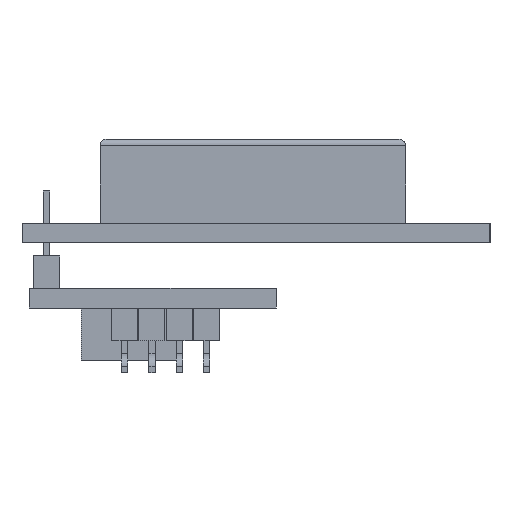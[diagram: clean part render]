
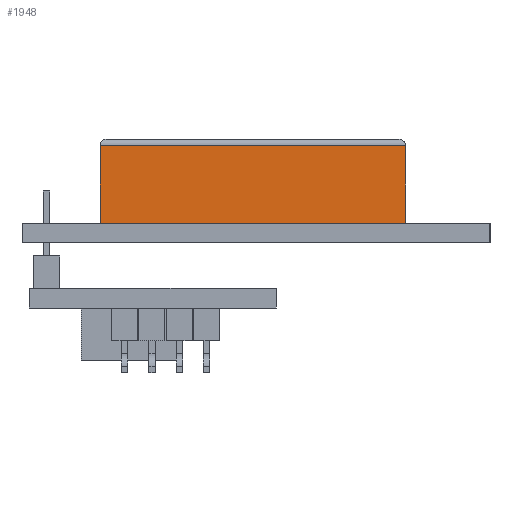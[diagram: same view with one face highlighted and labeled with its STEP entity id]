
A CAD part, left-side view. The second image highlights one B-rep face of the part: STEP entity #1948.
In plain terms, the highlighted planar face has unit normal (-1, 0, 0).
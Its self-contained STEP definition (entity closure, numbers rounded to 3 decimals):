
#816 = CYLINDRICAL_SURFACE('',#817,0.5);
#817 = AXIS2_PLACEMENT_3D('',#818,#819,#820);
#818 = CARTESIAN_POINT('',(-35.5,-11.5,6.));
#819 = DIRECTION('',(0.,1.,0.));
#820 = DIRECTION('',(0.,-0.,1.));
#1166 = VERTEX_POINT('',#1167);
#1167 = CARTESIAN_POINT('',(-36.,-11.5,6.));
#1181 = PLANE('',#1182);
#1182 = AXIS2_PLACEMENT_3D('',#1183,#1184,#1185);
#1183 = CARTESIAN_POINT('',(34.,-11.5,0.));
#1184 = DIRECTION('',(0.,-1.,0.));
#1185 = DIRECTION('',(-1.,0.,0.));
#1295 = EDGE_CURVE('',#1166,#1296,#1298,.T.);
#1296 = VERTEX_POINT('',#1297);
#1297 = CARTESIAN_POINT('',(-36.,12.,6.));
#1298 = SURFACE_CURVE('',#1299,(#1303,#1310),.PCURVE_S1.);
#1299 = LINE('',#1300,#1301);
#1300 = CARTESIAN_POINT('',(-36.,-11.5,6.));
#1301 = VECTOR('',#1302,1.);
#1302 = DIRECTION('',(0.,1.,0.));
#1303 = PCURVE('',#816,#1304);
#1304 = DEFINITIONAL_REPRESENTATION('',(#1305),#1309);
#1305 = LINE('',#1306,#1307);
#1306 = CARTESIAN_POINT('',(-1.571,0.));
#1307 = VECTOR('',#1308,1.);
#1308 = DIRECTION('',(-0.,1.));
#1309 = ( GEOMETRIC_REPRESENTATION_CONTEXT(2) 
PARAMETRIC_REPRESENTATION_CONTEXT() REPRESENTATION_CONTEXT('2D SPACE',''
  ) );
#1310 = PCURVE('',#1311,#1316);
#1311 = PLANE('',#1312);
#1312 = AXIS2_PLACEMENT_3D('',#1313,#1314,#1315);
#1313 = CARTESIAN_POINT('',(-36.,-11.5,0.));
#1314 = DIRECTION('',(-1.,0.,0.));
#1315 = DIRECTION('',(0.,1.,0.));
#1316 = DEFINITIONAL_REPRESENTATION('',(#1317),#1321);
#1317 = LINE('',#1318,#1319);
#1318 = CARTESIAN_POINT('',(0.,-6.));
#1319 = VECTOR('',#1320,1.);
#1320 = DIRECTION('',(1.,0.));
#1321 = ( GEOMETRIC_REPRESENTATION_CONTEXT(2) 
PARAMETRIC_REPRESENTATION_CONTEXT() REPRESENTATION_CONTEXT('2D SPACE',''
  ) );
#1374 = PLANE('',#1375);
#1375 = AXIS2_PLACEMENT_3D('',#1376,#1377,#1378);
#1376 = CARTESIAN_POINT('',(-36.,12.,0.));
#1377 = DIRECTION('',(0.,1.,0.));
#1378 = DIRECTION('',(1.,0.,0.));
#1851 = EDGE_CURVE('',#1852,#1166,#1854,.T.);
#1852 = VERTEX_POINT('',#1853);
#1853 = CARTESIAN_POINT('',(-36.,-11.5,0.));
#1854 = SURFACE_CURVE('',#1855,(#1859,#1866),.PCURVE_S1.);
#1855 = LINE('',#1856,#1857);
#1856 = CARTESIAN_POINT('',(-36.,-11.5,0.));
#1857 = VECTOR('',#1858,1.);
#1858 = DIRECTION('',(0.,0.,1.));
#1859 = PCURVE('',#1181,#1860);
#1860 = DEFINITIONAL_REPRESENTATION('',(#1861),#1865);
#1861 = LINE('',#1862,#1863);
#1862 = CARTESIAN_POINT('',(70.,0.));
#1863 = VECTOR('',#1864,1.);
#1864 = DIRECTION('',(0.,-1.));
#1865 = ( GEOMETRIC_REPRESENTATION_CONTEXT(2) 
PARAMETRIC_REPRESENTATION_CONTEXT() REPRESENTATION_CONTEXT('2D SPACE',''
  ) );
#1866 = PCURVE('',#1311,#1867);
#1867 = DEFINITIONAL_REPRESENTATION('',(#1868),#1872);
#1868 = LINE('',#1869,#1870);
#1869 = CARTESIAN_POINT('',(0.,0.));
#1870 = VECTOR('',#1871,1.);
#1871 = DIRECTION('',(0.,-1.));
#1872 = ( GEOMETRIC_REPRESENTATION_CONTEXT(2) 
PARAMETRIC_REPRESENTATION_CONTEXT() REPRESENTATION_CONTEXT('2D SPACE',''
  ) );
#1888 = PLANE('',#1889);
#1889 = AXIS2_PLACEMENT_3D('',#1890,#1891,#1892);
#1890 = CARTESIAN_POINT('',(-1.,0.25,0.));
#1891 = DIRECTION('',(-0.,-0.,-1.));
#1892 = DIRECTION('',(-1.,0.,0.));
#1948 = ADVANCED_FACE('',(#1949),#1311,.T.);
#1949 = FACE_BOUND('',#1950,.T.);
#1950 = EDGE_LOOP('',(#1951,#1952,#1953,#1976));
#1951 = ORIENTED_EDGE('',*,*,#1851,.T.);
#1952 = ORIENTED_EDGE('',*,*,#1295,.T.);
#1953 = ORIENTED_EDGE('',*,*,#1954,.F.);
#1954 = EDGE_CURVE('',#1955,#1296,#1957,.T.);
#1955 = VERTEX_POINT('',#1956);
#1956 = CARTESIAN_POINT('',(-36.,12.,0.));
#1957 = SURFACE_CURVE('',#1958,(#1962,#1969),.PCURVE_S1.);
#1958 = LINE('',#1959,#1960);
#1959 = CARTESIAN_POINT('',(-36.,12.,0.));
#1960 = VECTOR('',#1961,1.);
#1961 = DIRECTION('',(0.,0.,1.));
#1962 = PCURVE('',#1311,#1963);
#1963 = DEFINITIONAL_REPRESENTATION('',(#1964),#1968);
#1964 = LINE('',#1965,#1966);
#1965 = CARTESIAN_POINT('',(23.5,0.));
#1966 = VECTOR('',#1967,1.);
#1967 = DIRECTION('',(0.,-1.));
#1968 = ( GEOMETRIC_REPRESENTATION_CONTEXT(2) 
PARAMETRIC_REPRESENTATION_CONTEXT() REPRESENTATION_CONTEXT('2D SPACE',''
  ) );
#1969 = PCURVE('',#1374,#1970);
#1970 = DEFINITIONAL_REPRESENTATION('',(#1971),#1975);
#1971 = LINE('',#1972,#1973);
#1972 = CARTESIAN_POINT('',(0.,0.));
#1973 = VECTOR('',#1974,1.);
#1974 = DIRECTION('',(0.,-1.));
#1975 = ( GEOMETRIC_REPRESENTATION_CONTEXT(2) 
PARAMETRIC_REPRESENTATION_CONTEXT() REPRESENTATION_CONTEXT('2D SPACE',''
  ) );
#1976 = ORIENTED_EDGE('',*,*,#1977,.F.);
#1977 = EDGE_CURVE('',#1852,#1955,#1978,.T.);
#1978 = SURFACE_CURVE('',#1979,(#1983,#1990),.PCURVE_S1.);
#1979 = LINE('',#1980,#1981);
#1980 = CARTESIAN_POINT('',(-36.,-11.5,0.));
#1981 = VECTOR('',#1982,1.);
#1982 = DIRECTION('',(0.,1.,0.));
#1983 = PCURVE('',#1311,#1984);
#1984 = DEFINITIONAL_REPRESENTATION('',(#1985),#1989);
#1985 = LINE('',#1986,#1987);
#1986 = CARTESIAN_POINT('',(0.,0.));
#1987 = VECTOR('',#1988,1.);
#1988 = DIRECTION('',(1.,0.));
#1989 = ( GEOMETRIC_REPRESENTATION_CONTEXT(2) 
PARAMETRIC_REPRESENTATION_CONTEXT() REPRESENTATION_CONTEXT('2D SPACE',''
  ) );
#1990 = PCURVE('',#1888,#1991);
#1991 = DEFINITIONAL_REPRESENTATION('',(#1992),#1996);
#1992 = LINE('',#1993,#1994);
#1993 = CARTESIAN_POINT('',(35.,-11.75));
#1994 = VECTOR('',#1995,1.);
#1995 = DIRECTION('',(0.,1.));
#1996 = ( GEOMETRIC_REPRESENTATION_CONTEXT(2) 
PARAMETRIC_REPRESENTATION_CONTEXT() REPRESENTATION_CONTEXT('2D SPACE',''
  ) );
